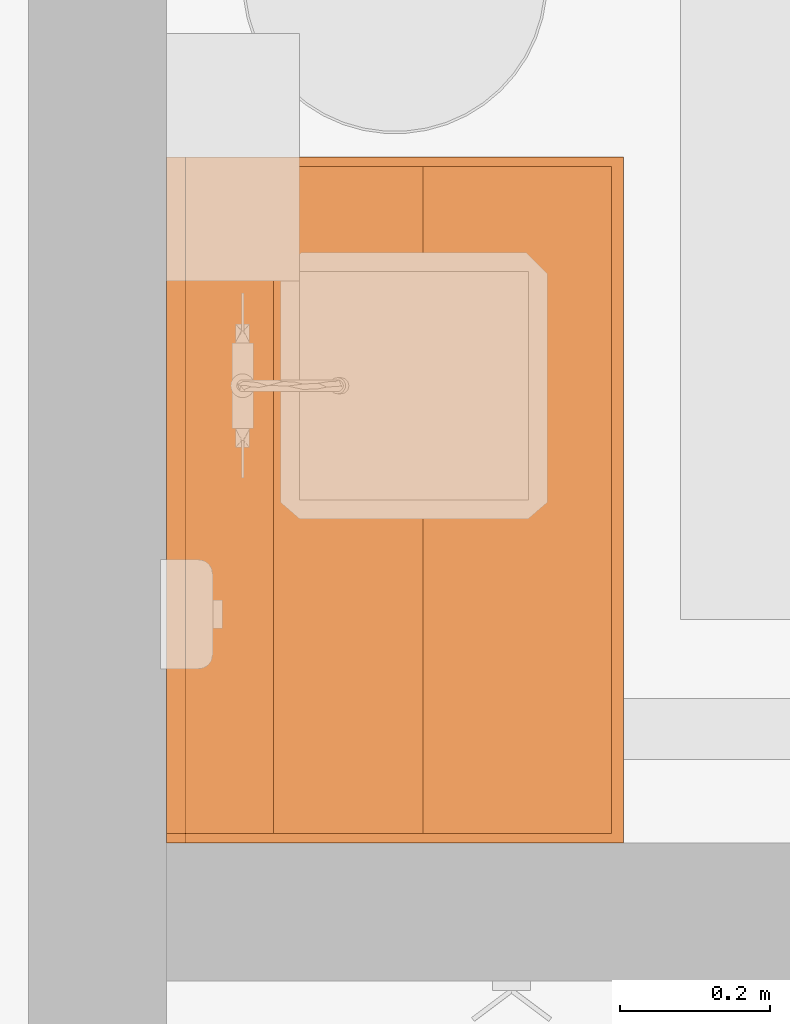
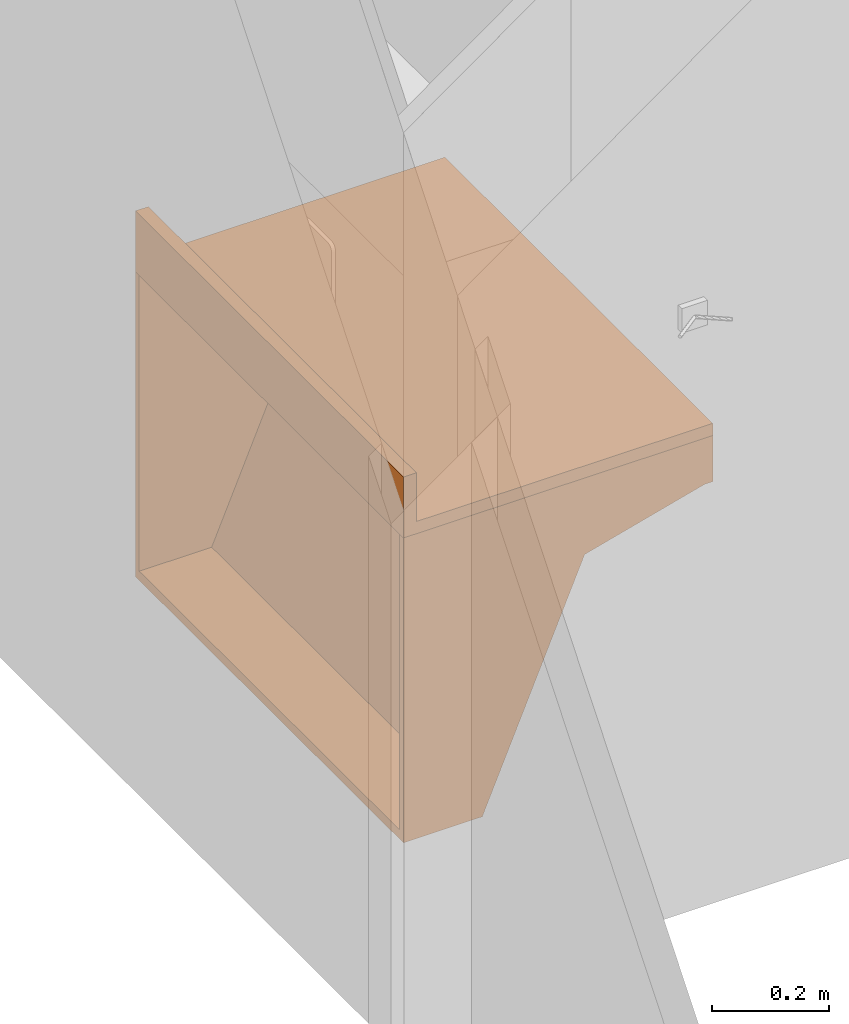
# One storey, part 62 of 142: 2 proxies.
"""IFC2X3 building model written with IfcOpenShell, lengths in feet."""

from ifc_helpers import new_model, entity, si_unit, converted_unit, derived_unit, direction, frame, frame_2d, origin, origin_2d_with_axis, place, context, subcontext, project, spatial, polyline, rectangle, outline, extrude, source, transform, mapped, type_object, type_shapes, element, save


model = new_model("IFC2X3")

# Units and contexts
model_context = context("Model", 3, precision=0.0001, world=origin(), true_north=direction((6.12303176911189e-17, 1.0)))
body_context = subcontext(model_context, "Body", "Model", "MODEL_VIEW")
ifc_project = project(units=[converted_unit("LENGTHUNIT", "FOOT", entity("IfcRatioMeasure", 0.3048), si_unit("LENGTHUNIT", "METRE"), dimensions=[1, 0, 0, 0, 0, 0, 0]), converted_unit("AREAUNIT", "SQUARE FOOT", entity("IfcRatioMeasure", 0.09290304), si_unit("AREAUNIT", "SQUARE_METRE"), dimensions=[2, 0, 0, 0, 0, 0, 0]), converted_unit("VOLUMEUNIT", "CUBIC FOOT", entity("IfcRatioMeasure", 0.028316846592), si_unit("VOLUMEUNIT", "CUBIC_METRE"), dimensions=[3, 0, 0, 0, 0, 0, 0]), converted_unit("PLANEANGLEUNIT", "DEGREE", entity("IfcRatioMeasure", 0.0174532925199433), si_unit("PLANEANGLEUNIT", "RADIAN"), dimensions=[0, 0, 0, 0, 0, 0, 0]), si_unit("MASSUNIT", "GRAM", prefix="KILO"), derived_unit("MASSDENSITYUNIT", [(si_unit("MASSUNIT", "GRAM", prefix="KILO"), 1), (si_unit("LENGTHUNIT", "METRE"), -3)]), si_unit("TIMEUNIT", "SECOND"), si_unit("FREQUENCYUNIT", "HERTZ"), si_unit("THERMODYNAMICTEMPERATUREUNIT", "DEGREE_CELSIUS"), derived_unit("THERMALTRANSMITTANCEUNIT", [(si_unit("MASSUNIT", "GRAM", prefix="KILO"), 1), (si_unit("THERMODYNAMICTEMPERATUREUNIT", "KELVIN"), -1), (si_unit("TIMEUNIT", "SECOND"), -3)]), derived_unit("VOLUMETRICFLOWRATEUNIT", [(si_unit("LENGTHUNIT", "METRE"), 3), (si_unit("TIMEUNIT", "SECOND"), -1)]), si_unit("ELECTRICCURRENTUNIT", "AMPERE"), si_unit("ELECTRICVOLTAGEUNIT", "VOLT"), si_unit("POWERUNIT", "WATT"), si_unit("FORCEUNIT", "NEWTON"), si_unit("ILLUMINANCEUNIT", "LUX"), si_unit("LUMINOUSFLUXUNIT", "LUMEN"), si_unit("LUMINOUSINTENSITYUNIT", "CANDELA"), derived_unit("USERDEFINED", [(si_unit("MASSUNIT", "GRAM", prefix="KILO"), -1), (si_unit("LENGTHUNIT", "METRE"), -2), (si_unit("TIMEUNIT", "SECOND"), 3), (si_unit("LUMINOUSFLUXUNIT", "LUMEN"), 1)]), derived_unit("LINEARVELOCITYUNIT", [(si_unit("LENGTHUNIT", "METRE"), 1), (si_unit("TIMEUNIT", "SECOND"), -1)]), si_unit("PRESSUREUNIT", "PASCAL"), derived_unit("USERDEFINED", [(si_unit("LENGTHUNIT", "METRE"), -2), (si_unit("MASSUNIT", "GRAM", prefix="KILO"), 1), (si_unit("TIMEUNIT", "SECOND"), -2)])], contexts=[model_context])

# Site, building, storey, space
site_placement = place(None, origin())
site = spatial("IfcSite", under=ifc_project, at=site_placement, Name="Default", CompositionType="ELEMENT")
building_placement = place(site_placement, origin())
building = spatial("IfcBuilding", under=site, at=building_placement, Name="OUTPATIENT / PACT CLINIC (Ch. 265)", CompositionType="ELEMENT")
storey_placement = place(building_placement, origin())
storey = spatial("IfcBuildingStorey", under=building, at=storey_placement, Name="LEVEL 1", CompositionType="ELEMENT", Elevation=0.0)
space_placement = place(storey_placement, origin())
space = spatial("IfcSpace", under=storey, at=space_placement, Name="EXPA1", CompositionType="ELEMENT", InteriorOrExteriorSpace="INTERNAL")

# Proxies
building_element_proxy_type_1 = type_object("IfcBuildingElementProxyType", Name="CT020 - Countertop, Solid Surface - No Opening (1)", PredefinedType="NOTDEFINED")
shared_shape_1 = source(origin(), body_context, "Body", "SweptSolid", [
    extrude(rectangle(XDim=3.0, YDim=0.083333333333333, at=frame_2d((0.0, -5.55111512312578e-17), x_axis=(1.0, 0.0))), frame((0.0, 0.958333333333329, 0.0833333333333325)), (0.0, 0.0, 1.0), 0.333333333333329),
    extrude(rectangle(XDim=3.0, YDim=2.0, at=origin_2d_with_axis()), origin(), (0.0, 0.0, 1.0), 0.0833333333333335),
])
type_shapes(building_element_proxy_type_1, [shared_shape_1])
proxy_1_placement = place(space_placement, frame((436.254976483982, -891.524555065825, 2.70833333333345), z_axis=(0.0, 0.0, 1.0), x_axis=(0.0, 1.0, 0.0)))
element("IfcBuildingElementProxy", 1, at=proxy_1_placement, inside=space, type_object=building_element_proxy_type_1, Name="CT020 - Countertop, Solid Surface - No Opening (1):CT020 - Countertop, Solid Surface - No Opening (1)", ObjectType="CT020 - Countertop, Solid Surface - No Opening (1)", context=body_context, shape_type="MappedRepresentation", body=[
    mapped(shared_shape_1, transform((0.0, 0.0, 0.0), scale=1.0)),
])
building_element_proxy_type_2 = type_object("IfcBuildingElementProxyType", Name="24\"H x 24\"D x 36\"W", PredefinedType="NOTDEFINED")
shared_shape_2 = source(origin(), body_context, "Body", "SweptSolid", [
    extrude(outline(polyline([(-0.750382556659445, 0.0187614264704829), (0.944711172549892, 0.0187614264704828), (1.14381332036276, 0.488200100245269), (1.08627459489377, 0.51260389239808), (0.903330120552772, 0.081261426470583), (-0.774516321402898, 0.0812614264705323), (-1.30874051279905, -0.586799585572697), (-1.24448981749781, -0.614050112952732), (-0.750382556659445, 0.0187614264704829)])), frame((-1.45833333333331, -1.19293570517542, 1.67489402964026), z_axis=(1.0, 0.0, 0.0), x_axis=(0.0, 0.390460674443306, -0.920619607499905)), (0.0, 0.0, 1.0), 2.91666666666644),
    extrude(outline(polyline([(-1.24925608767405, -0.929380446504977), (0.834077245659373, -0.929380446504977), (0.834077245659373, 1.01791116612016), (0.519077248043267, 1.01791116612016), (0.311280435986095, 0.242403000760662), (-1.24925608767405, -0.41946443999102), (-1.24925608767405, -0.929380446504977)])), frame((-1.49999999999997, -1.2262554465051, 2.06175608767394), z_axis=(1.0, 0.0, 0.0), x_axis=(0.0, 0.0, 1.0)), (0.0, 0.0, 1.0), 0.0416666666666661),
    extrude(rectangle(XDim=3.0, YDim=0.0527083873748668, at=frame_2d((0.0, -2.22044604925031e-16), x_axis=(1.0, 0.0))), frame((0.0, -2.27052080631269, 2.58083333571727), z_axis=(0.0, 0.0, 1.0), x_axis=(-1.0, 0.0, 0.0)), (0.0, 0.0, 1.0), 0.314999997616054),
    extrude(outline(polyline([(-1.24925608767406, -0.929380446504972), (0.834077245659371, -0.929380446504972), (0.834077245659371, 1.01791116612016), (0.519077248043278, 1.01791116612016), (0.311280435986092, 0.24240300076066), (-1.24925608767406, -0.419464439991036), (-1.24925608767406, -0.929380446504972)])), frame((1.45833333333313, -1.22625544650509, 2.06175608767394), z_axis=(1.0, 0.0, 0.0), x_axis=(0.0, 0.0, 1.0)), (0.0, 0.0, 1.0), 0.0416666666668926),
])
type_shapes(building_element_proxy_type_2, [shared_shape_2])
proxy_2_placement = place(space_placement, frame((434.958101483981, -891.524555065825, -0.187499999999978), z_axis=(0.0, 0.0, 1.0), x_axis=(0.0, 1.0, 0.0)))
element("IfcBuildingElementProxy", 2, at=proxy_2_placement, inside=space, type_object=building_element_proxy_type_2, Name="Z1018 - Cabinet, ADA Sink Support:24\"H x 24\"D x 36\"W", ObjectType="24\"H x 24\"D x 36\"W", context=body_context, shape_type="MappedRepresentation", body=[
    mapped(shared_shape_2, transform((0.0, 0.0, 0.0), scale=1.0)),
])

save(model, "model.ifc")
